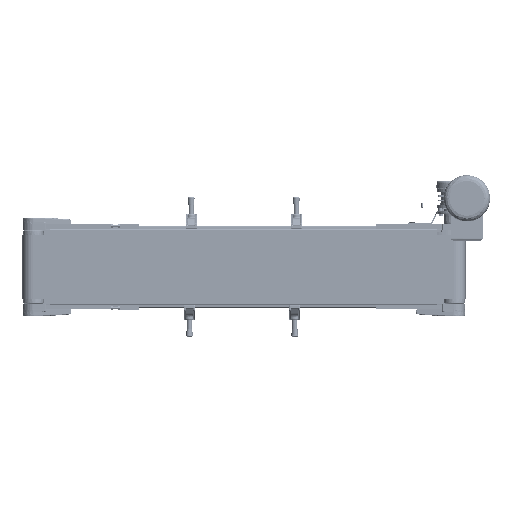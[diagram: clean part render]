
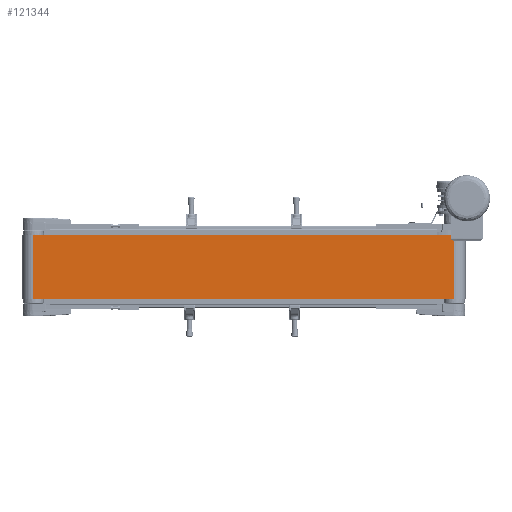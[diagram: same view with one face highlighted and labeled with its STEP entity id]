
A CAD part, front view. The second image highlights one B-rep face of the part: STEP entity #121344.
In plain terms, the highlighted planar face has unit normal (0, -1, 0).
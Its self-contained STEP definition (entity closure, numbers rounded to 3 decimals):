
#6099 = EDGE_CURVE ( 'NONE', #13256, #77545, #81858, .T. ) ;
#13256 = VERTEX_POINT ( 'NONE', #62985 ) ;
#19703 = VECTOR ( 'NONE', #44336, 1000. ) ;
#25917 = CARTESIAN_POINT ( 'NONE',  ( -500., -27., -75. ) ) ;
#27032 = CARTESIAN_POINT ( 'NONE',  ( -500., -27., 75. ) ) ;
#27970 = DIRECTION ( 'NONE',  ( 0., 0., 1. ) ) ;
#30779 = ORIENTED_EDGE ( 'NONE', *, *, #144246, .F. ) ;
#36447 = EDGE_CURVE ( 'NONE', #77545, #80971, #117840, .T. ) ;
#36768 = FACE_OUTER_BOUND ( 'NONE', #125232, .T. ) ;
#41207 = CARTESIAN_POINT ( 'NONE',  ( -500., -27., -75. ) ) ;
#44336 = DIRECTION ( 'NONE',  ( 0., 0., -1. ) ) ;
#47733 = CARTESIAN_POINT ( 'NONE',  ( -500., -27., 75. ) ) ;
#49349 = ORIENTED_EDGE ( 'NONE', *, *, #115586, .F. ) ;
#59117 = VECTOR ( 'NONE', #103010, 1000. ) ;
#62985 = CARTESIAN_POINT ( 'NONE',  ( -500., -27., 75. ) ) ;
#64371 = LINE ( 'NONE', #130066, #96267 ) ;
#67712 = LINE ( 'NONE', #112231, #19703 ) ;
#77545 = VERTEX_POINT ( 'NONE', #41207 ) ;
#80971 = VERTEX_POINT ( 'NONE', #85885 ) ;
#81858 = LINE ( 'NONE', #27032, #59117 ) ;
#85663 = CARTESIAN_POINT ( 'NONE',  ( 500., -27., 75. ) ) ;
#85885 = CARTESIAN_POINT ( 'NONE',  ( 500., -27., -75. ) ) ;
#96267 = VECTOR ( 'NONE', #131497, 1000. ) ;
#97658 = ORIENTED_EDGE ( 'NONE', *, *, #36447, .T. ) ;
#103010 = DIRECTION ( 'NONE',  ( 0., 0., -1. ) ) ;
#109095 = AXIS2_PLACEMENT_3D ( 'NONE', #47733, #138916, #27970 ) ;
#112231 = CARTESIAN_POINT ( 'NONE',  ( 500., -27., 75. ) ) ;
#115586 = EDGE_CURVE ( 'NONE', #133747, #80971, #67712, .T. ) ;
#117840 = LINE ( 'NONE', #25917, #122317 ) ;
#121344 = ADVANCED_FACE ( 'NONE', ( #36768 ), #125825, .F. ) ;
#122317 = VECTOR ( 'NONE', #126647, 1000. ) ;
#125232 = EDGE_LOOP ( 'NONE', ( #97658, #49349, #30779, #138817 ) ) ;
#125825 = PLANE ( 'NONE',  #109095 ) ;
#126647 = DIRECTION ( 'NONE',  ( 1., 0., 0. ) ) ;
#130066 = CARTESIAN_POINT ( 'NONE',  ( -500., -27., 75. ) ) ;
#131497 = DIRECTION ( 'NONE',  ( 1., 0., 0. ) ) ;
#133747 = VERTEX_POINT ( 'NONE', #85663 ) ;
#138817 = ORIENTED_EDGE ( 'NONE', *, *, #6099, .T. ) ;
#138916 = DIRECTION ( 'NONE',  ( 0., 1., 0. ) ) ;
#144246 = EDGE_CURVE ( 'NONE', #13256, #133747, #64371, .T. ) ;
